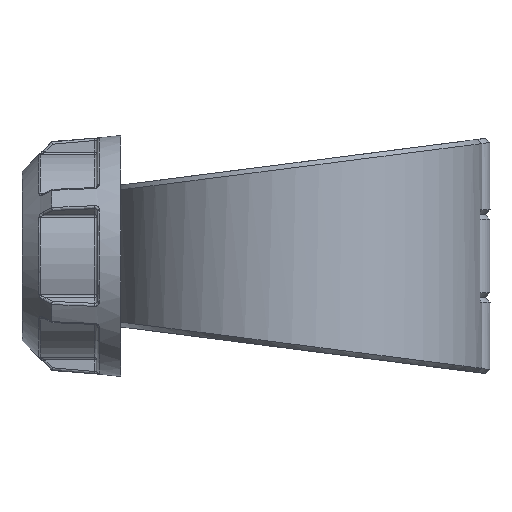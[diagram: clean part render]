
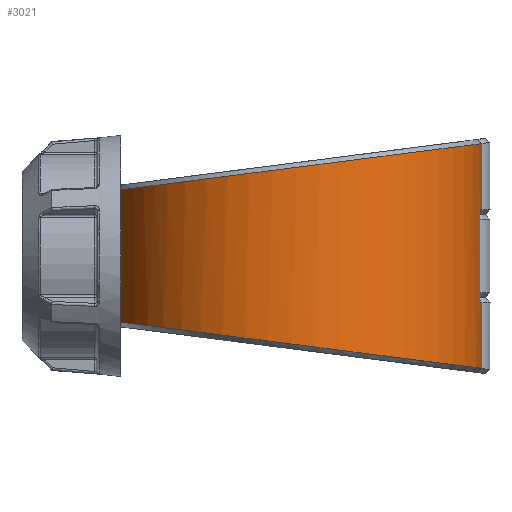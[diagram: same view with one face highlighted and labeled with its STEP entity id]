
A CAD part, left-side view. The second image highlights one B-rep face of the part: STEP entity #3021.
In plain terms, the highlighted cylindrical face has radius 78.5 mm (diameter 157 mm), a partial arc.
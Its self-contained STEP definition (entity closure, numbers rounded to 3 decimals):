
#212=FACE_OUTER_BOUND('',#416,.T.);
#416=EDGE_LOOP('',(#2055,#2056,#2057,#2058,#2059,#2060,#2061,#2062,#2063,
#2064,#2065,#2066));
#623=CIRCLE('',#3251,78.5);
#626=CIRCLE('',#3256,78.5);
#805=B_SPLINE_CURVE_WITH_KNOTS('',3,(#4512,#4513,#4514,#4515),
 .UNSPECIFIED.,.F.,.F.,(4,4),(-0.002,0.),.UNSPECIFIED.);
#806=B_SPLINE_CURVE_WITH_KNOTS('',3,(#4517,#4518,#4519,#4520),
 .UNSPECIFIED.,.F.,.F.,(4,4),(-3.047,-3.047),
 .UNSPECIFIED.);
#807=B_SPLINE_CURVE_WITH_KNOTS('',3,(#4521,#4522,#4523,#4524,#4525,#4526,
#4527,#4528,#4529,#4530),.UNSPECIFIED.,.F.,.F.,(4,1,1,1,1,1,1,4),(0.317,
0.631,1.035,1.44,1.845,2.249,
2.654,3.047),.UNSPECIFIED.);
#808=B_SPLINE_CURVE_WITH_KNOTS('',3,(#4532,#4533,#4534,#4535,#4536,#4537,
#4538,#4539,#4540,#4541),.UNSPECIFIED.,.F.,.F.,(4,1,1,1,1,1,1,4),(-3.047,
-2.654,-2.249,-1.845,-1.44,
-1.035,-0.631,-0.317),.UNSPECIFIED.);
#809=B_SPLINE_CURVE_WITH_KNOTS('',3,(#4543,#4544,#4545,#4546),
 .UNSPECIFIED.,.F.,.F.,(4,4),(3.047,3.047),
 .UNSPECIFIED.);
#810=B_SPLINE_CURVE_WITH_KNOTS('',3,(#4548,#4549,#4550,#4551),
 .UNSPECIFIED.,.F.,.F.,(4,4),(-0.379,-0.377),
 .UNSPECIFIED.);
#972=LINE('',#4391,#1093);
#979=LINE('',#4446,#1100);
#985=LINE('',#4510,#1106);
#986=LINE('',#4552,#1107);
#1093=VECTOR('',#3575,10.);
#1100=VECTOR('',#3592,10.);
#1106=VECTOR('',#3638,10.);
#1107=VECTOR('',#3639,10.);
#1216=VERTEX_POINT('',#4376);
#1217=VERTEX_POINT('',#4390);
#1229=VERTEX_POINT('',#4440);
#1230=VERTEX_POINT('',#4445);
#1236=VERTEX_POINT('',#4466);
#1239=VERTEX_POINT('',#4487);
#1243=VERTEX_POINT('',#4509);
#1244=VERTEX_POINT('',#4511);
#1245=VERTEX_POINT('',#4516);
#1246=VERTEX_POINT('',#4531);
#1247=VERTEX_POINT('',#4542);
#1248=VERTEX_POINT('',#4547);
#1510=EDGE_CURVE('',#1216,#1217,#972,.T.);
#1524=EDGE_CURVE('',#1229,#1230,#979,.T.);
#1537=EDGE_CURVE('',#1236,#1229,#623,.T.);
#1542=EDGE_CURVE('',#1230,#1239,#626,.T.);
#1548=EDGE_CURVE('',#1243,#1236,#985,.T.);
#1549=EDGE_CURVE('',#1244,#1243,#805,.T.);
#1550=EDGE_CURVE('',#1244,#1245,#806,.T.);
#1551=EDGE_CURVE('',#1217,#1245,#807,.T.);
#1552=EDGE_CURVE('',#1246,#1216,#808,.T.);
#1553=EDGE_CURVE('',#1246,#1247,#809,.T.);
#1554=EDGE_CURVE('',#1248,#1247,#810,.T.);
#1555=EDGE_CURVE('',#1239,#1248,#986,.T.);
#2055=ORIENTED_EDGE('',*,*,#1542,.F.);
#2056=ORIENTED_EDGE('',*,*,#1524,.F.);
#2057=ORIENTED_EDGE('',*,*,#1537,.F.);
#2058=ORIENTED_EDGE('',*,*,#1548,.F.);
#2059=ORIENTED_EDGE('',*,*,#1549,.F.);
#2060=ORIENTED_EDGE('',*,*,#1550,.T.);
#2061=ORIENTED_EDGE('',*,*,#1551,.F.);
#2062=ORIENTED_EDGE('',*,*,#1510,.F.);
#2063=ORIENTED_EDGE('',*,*,#1552,.F.);
#2064=ORIENTED_EDGE('',*,*,#1553,.T.);
#2065=ORIENTED_EDGE('',*,*,#1554,.F.);
#2066=ORIENTED_EDGE('',*,*,#1555,.F.);
#2962=CYLINDRICAL_SURFACE('',#3261,78.5);
#3021=ADVANCED_FACE('',(#212),#2962,.T.);
#3251=AXIS2_PLACEMENT_3D('',#4482,#3614,#3615);
#3256=AXIS2_PLACEMENT_3D('',#4496,#3624,#3625);
#3261=AXIS2_PLACEMENT_3D('',#4508,#3636,#3637);
#3575=DIRECTION('',(0.,0.,1.));
#3592=DIRECTION('',(0.,0.,-1.));
#3614=DIRECTION('center_axis',(0.,0.,-1.));
#3615=DIRECTION('ref_axis',(0.312,-0.95,0.));
#3624=DIRECTION('center_axis',(0.,0.,1.));
#3625=DIRECTION('ref_axis',(0.312,-0.95,0.));
#3636=DIRECTION('center_axis',(0.,0.,1.));
#3637=DIRECTION('ref_axis',(-0.312,0.95,0.));
#3638=DIRECTION('',(0.,0.,-1.));
#3639=DIRECTION('',(0.,0.,-1.));
#4376=CARTESIAN_POINT('',(-24.512,74.575,-27.998));
#4390=CARTESIAN_POINT('',(-24.512,74.575,27.998));
#4391=CARTESIAN_POINT('',(-24.512,74.575,0.));
#4440=CARTESIAN_POINT('',(-13.176,-77.386,19.5));
#4445=CARTESIAN_POINT('',(-13.176,-77.386,-19.5));
#4446=CARTESIAN_POINT('',(-13.176,-77.386,0.));
#4466=CARTESIAN_POINT('',(-7.389,-78.151,19.5));
#4482=CARTESIAN_POINT('Origin',(0.,0.,19.5));
#4487=CARTESIAN_POINT('',(-7.389,-78.151,-19.5));
#4496=CARTESIAN_POINT('Origin',(0.,0.,-19.5));
#4508=CARTESIAN_POINT('Origin',(0.,0.,0.));
#4509=CARTESIAN_POINT('',(-7.389,-78.151,47.543));
#4510=CARTESIAN_POINT('',(-7.389,-78.151,0.));
#4511=CARTESIAN_POINT('',(-7.376,-78.153,47.553));
#4512=CARTESIAN_POINT('Ctrl Pts',(-7.375,-78.152,47.553));
#4513=CARTESIAN_POINT('Ctrl Pts',(-7.38,-78.152,47.55));
#4514=CARTESIAN_POINT('Ctrl Pts',(-7.384,-78.151,47.547));
#4515=CARTESIAN_POINT('Ctrl Pts',(-7.389,-78.151,47.543));
#4516=CARTESIAN_POINT('',(-7.389,-78.151,47.553));
#4517=CARTESIAN_POINT('Ctrl Pts',(-7.376,-78.153,47.553));
#4518=CARTESIAN_POINT('Ctrl Pts',(-7.38,-78.152,47.553));
#4519=CARTESIAN_POINT('Ctrl Pts',(-7.385,-78.152,47.553));
#4520=CARTESIAN_POINT('Ctrl Pts',(-7.389,-78.151,47.553));
#4521=CARTESIAN_POINT('Ctrl Pts',(-24.511,74.573,27.999));
#4522=CARTESIAN_POINT('Ctrl Pts',(-32.339,71.996,28.328));
#4523=CARTESIAN_POINT('Ctrl Pts',(-49.331,63.279,29.44));
#4524=CARTESIAN_POINT('Ctrl Pts',(-69.501,40.972,32.29));
#4525=CARTESIAN_POINT('Ctrl Pts',(-80.027,10.259,36.217));
#4526=CARTESIAN_POINT('Ctrl Pts',(-77.589,-22.071,40.358));
#4527=CARTESIAN_POINT('Ctrl Pts',(-62.663,-50.805,44.042));
#4528=CARTESIAN_POINT('Ctrl Pts',(-37.907,-71.126,46.651));
#4529=CARTESIAN_POINT('Ctrl Pts',(-17.589,-77.186,47.429));
#4530=CARTESIAN_POINT('Ctrl Pts',(-7.389,-78.151,47.553));
#4531=CARTESIAN_POINT('',(-7.389,-78.151,-47.553));
#4532=CARTESIAN_POINT('Ctrl Pts',(-7.389,-78.151,-47.553));
#4533=CARTESIAN_POINT('Ctrl Pts',(-17.589,-77.186,-47.429));
#4534=CARTESIAN_POINT('Ctrl Pts',(-37.907,-71.126,-46.651));
#4535=CARTESIAN_POINT('Ctrl Pts',(-62.663,-50.805,-44.042));
#4536=CARTESIAN_POINT('Ctrl Pts',(-77.59,-22.071,-40.358));
#4537=CARTESIAN_POINT('Ctrl Pts',(-80.027,10.258,-36.217));
#4538=CARTESIAN_POINT('Ctrl Pts',(-69.505,40.975,-32.289));
#4539=CARTESIAN_POINT('Ctrl Pts',(-49.327,63.276,-29.441));
#4540=CARTESIAN_POINT('Ctrl Pts',(-32.338,71.995,-28.328));
#4541=CARTESIAN_POINT('Ctrl Pts',(-24.511,74.572,-27.999));
#4542=CARTESIAN_POINT('',(-7.376,-78.153,-47.553));
#4543=CARTESIAN_POINT('Ctrl Pts',(-7.389,-78.151,-47.553));
#4544=CARTESIAN_POINT('Ctrl Pts',(-7.385,-78.152,-47.553));
#4545=CARTESIAN_POINT('Ctrl Pts',(-7.38,-78.152,-47.553));
#4546=CARTESIAN_POINT('Ctrl Pts',(-7.376,-78.153,-47.553));
#4547=CARTESIAN_POINT('',(-7.389,-78.151,-47.543));
#4548=CARTESIAN_POINT('Ctrl Pts',(-7.389,-78.151,-47.543));
#4549=CARTESIAN_POINT('Ctrl Pts',(-7.384,-78.151,-47.547));
#4550=CARTESIAN_POINT('Ctrl Pts',(-7.38,-78.152,-47.55));
#4551=CARTESIAN_POINT('Ctrl Pts',(-7.375,-78.152,-47.553));
#4552=CARTESIAN_POINT('',(-7.389,-78.151,0.));
